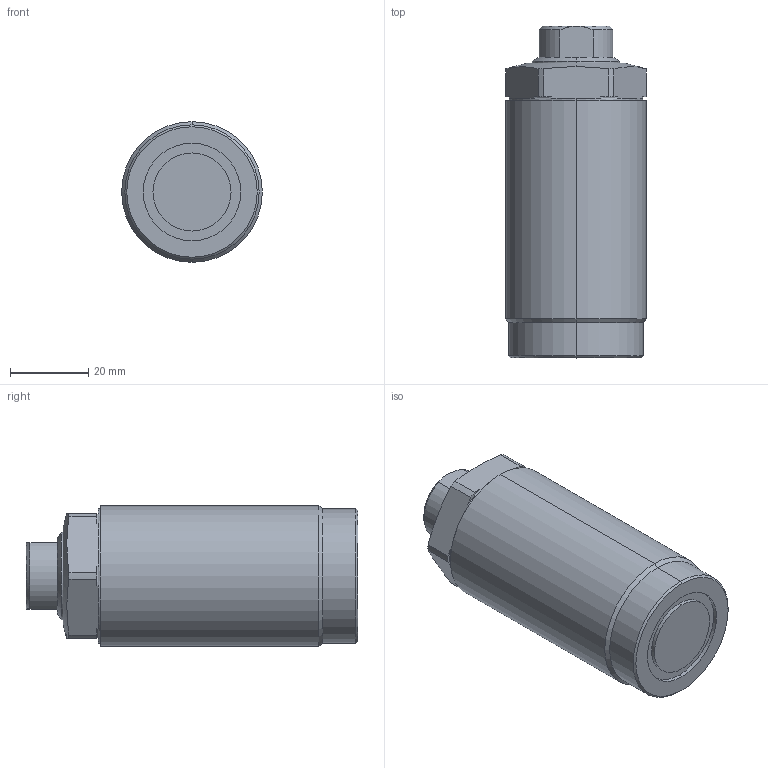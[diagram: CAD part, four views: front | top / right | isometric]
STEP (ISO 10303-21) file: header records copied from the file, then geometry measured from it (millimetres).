
FILE_DESCRIPTION (( 'STEP AP203' ), '1' );
FILE_NAME ('T03C-M364-L threaded pusher.STEP', '2022-07-09T17:41:26', ( '' ), ( '' ), 'SwSTEP 2.0', 'SolidWorks 2017', '' );
FILE_SCHEMA (( 'CONFIG_CONTROL_DESIGN' ));
Length unit declared in the file: millimetre
Products named in the file (3): T03C-M364-L part-1; T03C-M364-L part-2; T03C-M364-L threaded pusher
Assembly tree (2 placements, depth 2):
  T03C-M364-L threaded pusher
    T03C-M364-L part-1
    T03C-M364-L part-2
Bounding box: 36 x 85 x 36 mm (x, y, z)
Volume: 90136.4 mm3; surface area: 14493.6 mm2
Topology: 2 solids, 2 shells, 261 faces, 698 edges, 459 vertices
Faces by surface type: plane 136, bspline 85, cylinder 22, cone 18
Entity records: 12567 total; most frequent: CARTESIAN_POINT 6482, ORIENTED_EDGE 1392, DIRECTION 858, EDGE_CURVE 696, VERTEX_POINT 459, LINE 348, VECTOR 348, EDGE_LOOP 281
